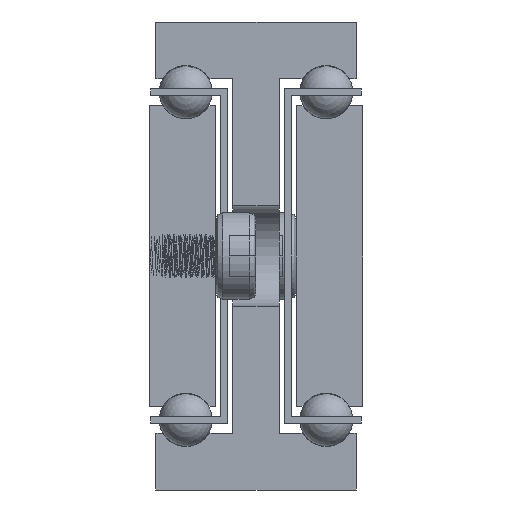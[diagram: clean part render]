
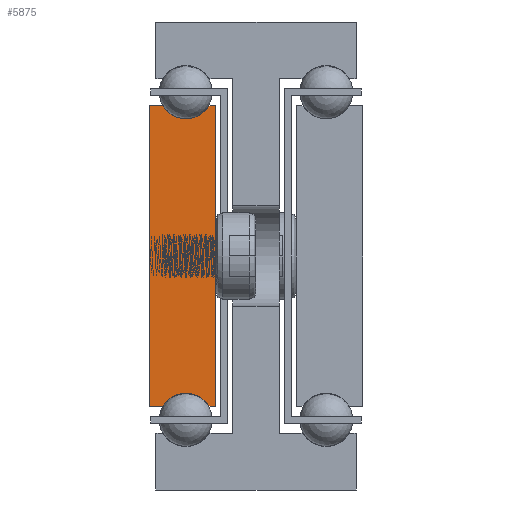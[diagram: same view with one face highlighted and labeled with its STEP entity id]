
A CAD part, front view. The second image highlights one B-rep face of the part: STEP entity #5875.
In plain terms, the highlighted planar face has unit normal (0, -1, 0).
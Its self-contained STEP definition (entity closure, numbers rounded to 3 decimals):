
#917=CIRCLE('',#6299,4.);
#919=CIRCLE('',#6305,4.);
#1369=FACE_OUTER_BOUND('',#1749,.T.);
#1749=EDGE_LOOP('',(#4646,#4647,#4648,#4649,#4650,#4651,#4652,#4653));
#2328=LINE('',#96521,#2540);
#2331=LINE('',#96527,#2543);
#2335=LINE('',#96539,#2547);
#2338=LINE('',#96545,#2550);
#2341=LINE('',#96551,#2553);
#2345=LINE('',#96561,#2557);
#2540=VECTOR('',#7018,1.);
#2543=VECTOR('',#7023,1.);
#2547=VECTOR('',#7035,1.);
#2550=VECTOR('',#7040,1.);
#2553=VECTOR('',#7045,1.);
#2557=VECTOR('',#7057,1.);
#2840=VERTEX_POINT('',#96518);
#2841=VERTEX_POINT('',#96520);
#2843=VERTEX_POINT('',#96526);
#2845=VERTEX_POINT('',#96532);
#2847=VERTEX_POINT('',#96538);
#2849=VERTEX_POINT('',#96544);
#2851=VERTEX_POINT('',#96550);
#2853=VERTEX_POINT('',#96556);
#3582=EDGE_CURVE('',#2841,#2840,#2328,.T.);
#3585=EDGE_CURVE('',#2843,#2841,#2331,.T.);
#3588=EDGE_CURVE('',#2845,#2843,#917,.T.);
#3591=EDGE_CURVE('',#2847,#2845,#2335,.T.);
#3594=EDGE_CURVE('',#2849,#2847,#2338,.T.);
#3597=EDGE_CURVE('',#2851,#2849,#2341,.T.);
#3600=EDGE_CURVE('',#2853,#2851,#919,.T.);
#3603=EDGE_CURVE('',#2840,#2853,#2345,.T.);
#4646=ORIENTED_EDGE('',*,*,#3603,.T.);
#4647=ORIENTED_EDGE('',*,*,#3600,.T.);
#4648=ORIENTED_EDGE('',*,*,#3597,.T.);
#4649=ORIENTED_EDGE('',*,*,#3594,.T.);
#4650=ORIENTED_EDGE('',*,*,#3591,.T.);
#4651=ORIENTED_EDGE('',*,*,#3588,.T.);
#4652=ORIENTED_EDGE('',*,*,#3585,.T.);
#4653=ORIENTED_EDGE('',*,*,#3582,.T.);
#5729=PLANE('',#6308);
#5875=ADVANCED_FACE('',(#1369),#5729,.T.);
#6299=AXIS2_PLACEMENT_3D('',#96533,#7029,#7030);
#6305=AXIS2_PLACEMENT_3D('',#96557,#7051,#7052);
#6308=AXIS2_PLACEMENT_3D('',#96563,#7060,#7061);
#7018=DIRECTION('',(0.,0.,-1.));
#7023=DIRECTION('',(-1.,0.,0.));
#7029=DIRECTION('center_axis',(0.,1.,0.));
#7030=DIRECTION('ref_axis',(-0.866,0.,-0.5));
#7035=DIRECTION('',(-1.,0.,0.));
#7040=DIRECTION('',(0.,0.,1.));
#7045=DIRECTION('',(1.,0.,0.));
#7051=DIRECTION('center_axis',(0.,1.,0.));
#7052=DIRECTION('ref_axis',(0.866,0.,0.5));
#7057=DIRECTION('',(1.,0.,0.));
#7060=DIRECTION('center_axis',(0.,-1.,0.));
#7061=DIRECTION('ref_axis',(1.,0.,0.));
#96518=CARTESIAN_POINT('',(-989.782,-466.855,-57.5));
#96520=CARTESIAN_POINT('',(-989.782,-466.855,-12.5));
#96521=CARTESIAN_POINT('',(-989.782,-466.855,-57.5));
#96526=CARTESIAN_POINT('',(-987.746,-466.855,-12.5));
#96527=CARTESIAN_POINT('',(-989.782,-466.855,-12.5));
#96532=CARTESIAN_POINT('',(-980.818,-466.855,-12.5));
#96533=CARTESIAN_POINT('Origin',(-984.282,-466.855,-10.5));
#96538=CARTESIAN_POINT('',(-979.782,-466.855,-12.5));
#96539=CARTESIAN_POINT('',(-980.818,-466.855,-12.5));
#96544=CARTESIAN_POINT('',(-979.782,-466.855,-57.5));
#96545=CARTESIAN_POINT('',(-979.782,-466.855,-12.5));
#96550=CARTESIAN_POINT('',(-980.818,-466.855,-57.5));
#96551=CARTESIAN_POINT('',(-979.782,-466.855,-57.5));
#96556=CARTESIAN_POINT('',(-987.746,-466.855,-57.5));
#96557=CARTESIAN_POINT('Origin',(-984.282,-466.855,-59.5));
#96561=CARTESIAN_POINT('',(-987.746,-466.855,-57.5));
#96563=CARTESIAN_POINT('Origin',(-984.788,-466.855,-35.));
